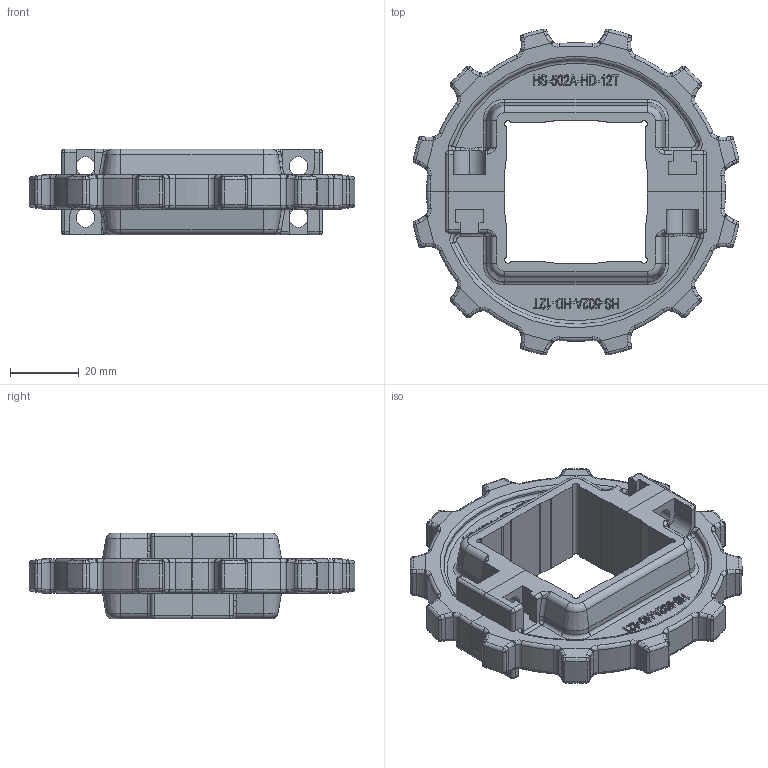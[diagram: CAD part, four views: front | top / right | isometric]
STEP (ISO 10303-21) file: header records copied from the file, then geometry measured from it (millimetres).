
FILE_DESCRIPTION(/* description */ (''),/* implementation_level */ '2;1');
FILE_NAME(/* name */ 'HS-502A-HD-12T-S40.stp',/* time_stamp */ '2024-01-23T17:50:05+08:00',/* author */ (''),/* organization */ (''),/* preprocessor_version */ 'ST-DEVELOPER v15',/* originating_system */ 'SIEMENS PLM Software NX 8.5',/* authorisation */ '');
FILE_SCHEMA (('AP203_CONFIGURATION_CONTROLLED_3D_DESIGN_OF_MECHANICAL_PARTS_AND_ASSEMBLIES_MIM_LF { 1 0 10303 403 2 1 2}'));
Length unit declared in the file: millimetre
Products named in the file (1): Admi6FD4E3A0g4qa
Bounding box: 94.92 x 94.92 x 25 mm (x, y, z)
Volume: 57690.9 mm3; surface area: 24856 mm2
Topology: 2 solids, 2 shells, 1110 faces, 2840 edges, 1692 vertices
Faces by surface type: plane 378, cylinder 286, bspline 212, torus 156, extrusion 46, sphere 20, cone 12
Full cylindrical faces by diameter (mm): 5.5 x8
Entity records: 47794 total; most frequent: CARTESIAN_POINT 14967, ORIENTED_EDGE 5496, DIRECTION 4866, EDGE_CURVE 2748, AXIS2_PLACEMENT_3D 1857, VERTEX_POINT 1684, EDGE_LOOP 1168, VECTOR 1152
